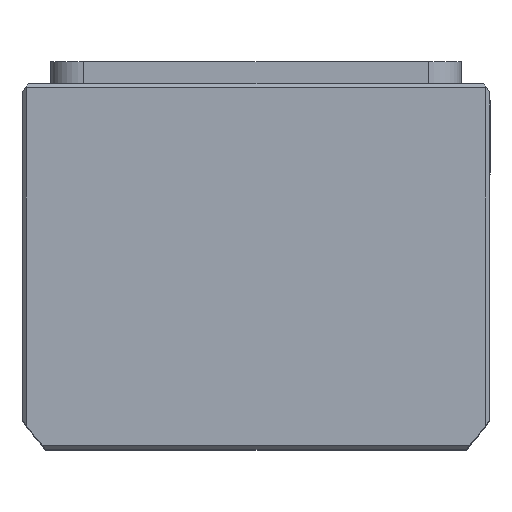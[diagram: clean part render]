
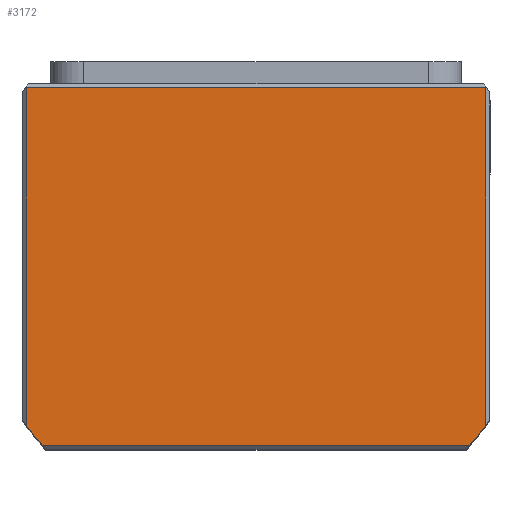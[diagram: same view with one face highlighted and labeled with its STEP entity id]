
A CAD part, top view. The second image highlights one B-rep face of the part: STEP entity #3172.
In plain terms, the highlighted planar face has unit normal (0, 0, 1) as drawn and (0, 0, -1) by its records, which use the part's own axes.
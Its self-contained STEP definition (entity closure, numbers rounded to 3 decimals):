
#491 = AXIS2_PLACEMENT_3D ( 'NONE', #10356, #23161, #12201 ) ;
#497 = VERTEX_POINT ( 'NONE', #18498 ) ;
#2422 = CARTESIAN_POINT ( 'NONE',  ( -52.098, 43.5, 0. ) ) ;
#2854 = CARTESIAN_POINT ( 'NONE',  ( 56., -43.5, 0. ) ) ;
#3172 = ADVANCED_FACE ( 'NONE', ( #10706 ), #11738, .F. ) ;
#3485 = EDGE_CURVE ( 'NONE', #5156, #12841, #3512, .T. ) ;
#3512 = CIRCLE ( 'NONE', #491, 69.5 ) ;
#4430 = DIRECTION ( 'NONE',  ( 1., 0., 0. ) ) ;
#5156 = VERTEX_POINT ( 'NONE', #2422 ) ;
#5444 = CARTESIAN_POINT ( 'NONE',  ( 0., 43.5, 0. ) ) ;
#5484 = CARTESIAN_POINT ( 'NONE',  ( 56., 38.661, 0. ) ) ;
#5626 = ORIENTED_EDGE ( 'NONE', *, *, #6634, .F. ) ;
#6634 = EDGE_CURVE ( 'NONE', #8833, #20004, #22976, .T. ) ;
#7016 = DIRECTION ( 'NONE',  ( 0., 0., 1. ) ) ;
#7319 = DIRECTION ( 'NONE',  ( 1., 0., 0. ) ) ;
#7983 = CARTESIAN_POINT ( 'NONE',  ( 0., 0., 0. ) ) ;
#8097 = CARTESIAN_POINT ( 'NONE',  ( -56., 0., 0. ) ) ;
#8145 = LINE ( 'NONE', #8097, #12999 ) ;
#8307 = ORIENTED_EDGE ( 'NONE', *, *, #13150, .T. ) ;
#8562 = ORIENTED_EDGE ( 'NONE', *, *, #18479, .T. ) ;
#8833 = VERTEX_POINT ( 'NONE', #5484 ) ;
#9534 = VECTOR ( 'NONE', #21939, 1000. ) ;
#9995 = EDGE_CURVE ( 'NONE', #8833, #22361, #16162, .T. ) ;
#10356 = CARTESIAN_POINT ( 'NONE',  ( 0., -2.5, 0. ) ) ;
#10375 = AXIS2_PLACEMENT_3D ( 'NONE', #17968, #7016, #19829 ) ;
#10706 = FACE_OUTER_BOUND ( 'NONE', #16390, .T. ) ;
#11169 = EDGE_CURVE ( 'NONE', #497, #12841, #8145, .T. ) ;
#11303 = VECTOR ( 'NONE', #19354, 1000. ) ;
#11450 = VECTOR ( 'NONE', #7319, 1000. ) ;
#11738 = PLANE ( 'NONE',  #23081 ) ;
#12201 = DIRECTION ( 'NONE',  ( 1., 0., 0. ) ) ;
#12841 = VERTEX_POINT ( 'NONE', #22377 ) ;
#12999 = VECTOR ( 'NONE', #19066, 1000. ) ;
#13150 = EDGE_CURVE ( 'NONE', #22361, #497, #14396, .T. ) ;
#13360 = ORIENTED_EDGE ( 'NONE', *, *, #9995, .T. ) ;
#14396 = LINE ( 'NONE', #16417, #9534 ) ;
#15430 = DIRECTION ( 'NONE',  ( 0., 0., 1. ) ) ;
#16162 = LINE ( 'NONE', #17509, #11303 ) ;
#16390 = EDGE_LOOP ( 'NONE', ( #5626, #13360, #8307, #16546, #21466, #8562 ) ) ;
#16417 = CARTESIAN_POINT ( 'NONE',  ( 0., -43.5, 0. ) ) ;
#16546 = ORIENTED_EDGE ( 'NONE', *, *, #11169, .T. ) ;
#17498 = LINE ( 'NONE', #5444, #11450 ) ;
#17509 = CARTESIAN_POINT ( 'NONE',  ( 56., 0., 0. ) ) ;
#17968 = CARTESIAN_POINT ( 'NONE',  ( 0., -2.5, 0. ) ) ;
#18479 = EDGE_CURVE ( 'NONE', #5156, #20004, #17498, .T. ) ;
#18498 = CARTESIAN_POINT ( 'NONE',  ( -56., -43.5, 0. ) ) ;
#19066 = DIRECTION ( 'NONE',  ( 0., 1., 0. ) ) ;
#19354 = DIRECTION ( 'NONE',  ( 0., -1., 0. ) ) ;
#19388 = CARTESIAN_POINT ( 'NONE',  ( 52.098, 43.5, 0. ) ) ;
#19829 = DIRECTION ( 'NONE',  ( 1., 0., 0. ) ) ;
#20004 = VERTEX_POINT ( 'NONE', #19388 ) ;
#21466 = ORIENTED_EDGE ( 'NONE', *, *, #3485, .F. ) ;
#21939 = DIRECTION ( 'NONE',  ( -1., 0., 0. ) ) ;
#22361 = VERTEX_POINT ( 'NONE', #2854 ) ;
#22377 = CARTESIAN_POINT ( 'NONE',  ( -56., 38.661, 0. ) ) ;
#22976 = CIRCLE ( 'NONE', #10375, 69.5 ) ;
#23081 = AXIS2_PLACEMENT_3D ( 'NONE', #7983, #15430, #4430 ) ;
#23161 = DIRECTION ( 'NONE',  ( 0., 0., 1. ) ) ;
